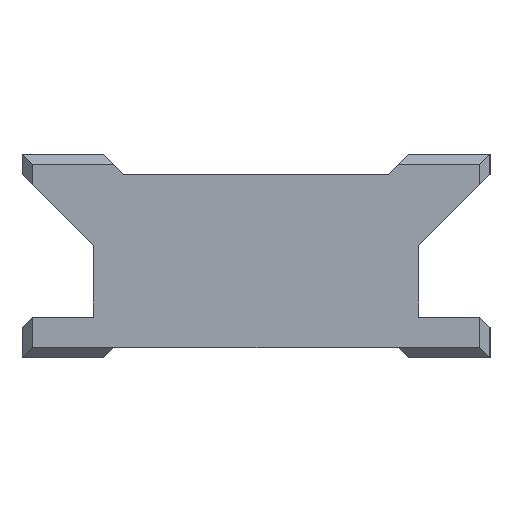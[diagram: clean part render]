
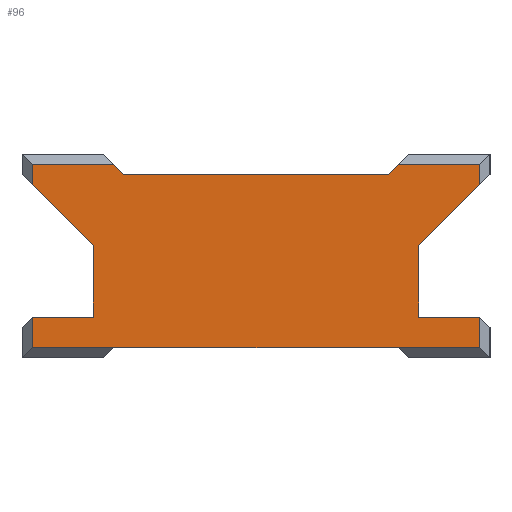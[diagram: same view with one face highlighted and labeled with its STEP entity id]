
A CAD part, left-side view. The second image highlights one B-rep face of the part: STEP entity #96.
In plain terms, the highlighted planar face has unit normal (-1, 0, 0).
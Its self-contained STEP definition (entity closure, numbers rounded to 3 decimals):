
#96 = ADVANCED_FACE( '', ( #246 ), #247, .T. );
#246 = FACE_OUTER_BOUND( '', #496, .T. );
#247 = PLANE( '', #497 );
#496 = EDGE_LOOP( '', ( #909, #910, #911, #912, #913, #914, #915, #916, #917, #918, #919, #920, #921, #922, #923, #924, #925, #926 ) );
#497 = AXIS2_PLACEMENT_3D( '', #927, #928, #929 );
#909 = ORIENTED_EDGE( '', *, *, #1646, .T. );
#910 = ORIENTED_EDGE( '', *, *, #1647, .T. );
#911 = ORIENTED_EDGE( '', *, *, #1634, .T. );
#912 = ORIENTED_EDGE( '', *, *, #1640, .T. );
#913 = ORIENTED_EDGE( '', *, *, #1642, .T. );
#914 = ORIENTED_EDGE( '', *, *, #1644, .T. );
#915 = ORIENTED_EDGE( '', *, *, #1648, .T. );
#916 = ORIENTED_EDGE( '', *, *, #1649, .T. );
#917 = ORIENTED_EDGE( '', *, *, #1516, .T. );
#918 = ORIENTED_EDGE( '', *, *, #1650, .T. );
#919 = ORIENTED_EDGE( '', *, *, #1651, .T. );
#920 = ORIENTED_EDGE( '', *, *, #1652, .T. );
#921 = ORIENTED_EDGE( '', *, *, #1653, .T. );
#922 = ORIENTED_EDGE( '', *, *, #1654, .T. );
#923 = ORIENTED_EDGE( '', *, *, #1655, .T. );
#924 = ORIENTED_EDGE( '', *, *, #1656, .T. );
#925 = ORIENTED_EDGE( '', *, *, #1657, .T. );
#926 = ORIENTED_EDGE( '', *, *, #1567, .T. );
#927 = CARTESIAN_POINT( '', ( -200., 0., -5. ) );
#928 = DIRECTION( '', ( -1., 0., 0. ) );
#929 = DIRECTION( '', ( 0., 0., 1. ) );
#1516 = EDGE_CURVE( '', #1774, #1775, #1776, .T. );
#1567 = EDGE_CURVE( '', #1873, #1874, #1875, .T. );
#1634 = EDGE_CURVE( '', #1995, #1996, #1997, .T. );
#1640 = EDGE_CURVE( '', #1996, #2004, #2006, .T. );
#1642 = EDGE_CURVE( '', #2004, #2008, #2009, .T. );
#1644 = EDGE_CURVE( '', #2008, #2011, #2012, .T. );
#1646 = EDGE_CURVE( '', #1874, #2014, #2015, .T. );
#1647 = EDGE_CURVE( '', #2014, #1995, #2016, .T. );
#1648 = EDGE_CURVE( '', #2011, #2017, #2018, .T. );
#1649 = EDGE_CURVE( '', #2017, #1774, #2019, .T. );
#1650 = EDGE_CURVE( '', #1775, #2020, #2021, .T. );
#1651 = EDGE_CURVE( '', #2020, #2022, #2023, .T. );
#1652 = EDGE_CURVE( '', #2022, #2024, #2025, .T. );
#1653 = EDGE_CURVE( '', #2024, #2026, #2027, .T. );
#1654 = EDGE_CURVE( '', #2026, #2028, #2029, .T. );
#1655 = EDGE_CURVE( '', #2028, #2030, #2031, .T. );
#1656 = EDGE_CURVE( '', #2030, #2032, #2033, .T. );
#1657 = EDGE_CURVE( '', #2032, #1873, #2034, .T. );
#1774 = VERTEX_POINT( '', #2204 );
#1775 = VERTEX_POINT( '', #2205 );
#1776 = LINE( '', #2206, #2207 );
#1873 = VERTEX_POINT( '', #2330 );
#1874 = VERTEX_POINT( '', #2331 );
#1875 = LINE( '', #2332, #2333 );
#1995 = VERTEX_POINT( '', #2500 );
#1996 = VERTEX_POINT( '', #2501 );
#1997 = LINE( '', #2502, #2503 );
#2004 = VERTEX_POINT( '', #2514 );
#2006 = LINE( '', #2517, #2518 );
#2008 = VERTEX_POINT( '', #2521 );
#2009 = LINE( '', #2522, #2523 );
#2011 = VERTEX_POINT( '', #2526 );
#2012 = LINE( '', #2527, #2528 );
#2014 = VERTEX_POINT( '', #2531 );
#2015 = LINE( '', #2532, #2533 );
#2016 = LINE( '', #2534, #2535 );
#2017 = VERTEX_POINT( '', #2536 );
#2018 = LINE( '', #2537, #2538 );
#2019 = LINE( '', #2539, #2540 );
#2020 = VERTEX_POINT( '', #2541 );
#2021 = LINE( '', #2542, #2543 );
#2022 = VERTEX_POINT( '', #2544 );
#2023 = LINE( '', #2545, #2546 );
#2024 = VERTEX_POINT( '', #2547 );
#2025 = LINE( '', #2548, #2549 );
#2026 = VERTEX_POINT( '', #2550 );
#2027 = LINE( '', #2551, #2552 );
#2028 = VERTEX_POINT( '', #2553 );
#2029 = LINE( '', #2554, #2555 );
#2030 = VERTEX_POINT( '', #2556 );
#2031 = LINE( '', #2557, #2558 );
#2032 = VERTEX_POINT( '', #2559 );
#2033 = LINE( '', #2560, #2561 );
#2034 = LINE( '', #2562, #2563 );
#2204 = CARTESIAN_POINT( '', ( -200., 7., -4.5 ) );
#2205 = CARTESIAN_POINT( '', ( -200., -7., -4.5 ) );
#2206 = CARTESIAN_POINT( '', ( -200., 0., -4.5 ) );
#2207 = VECTOR( '', #2828, 1000. );
#2330 = CARTESIAN_POINT( '', ( -200., -6.5, 4. ) );
#2331 = CARTESIAN_POINT( '', ( -200., 6.5, 4. ) );
#2332 = CARTESIAN_POINT( '', ( -200., 0., 4. ) );
#2333 = VECTOR( '', #2927, 1000. );
#2500 = CARTESIAN_POINT( '', ( -200., 11., 4.5 ) );
#2501 = CARTESIAN_POINT( '', ( -200., 11., 3.5 ) );
#2502 = CARTESIAN_POINT( '', ( -200., 11., -5. ) );
#2503 = VECTOR( '', #3032, 1000. );
#2514 = CARTESIAN_POINT( '', ( -200., 8., 0.5 ) );
#2517 = CARTESIAN_POINT( '', ( -200., 1.25, -6.25 ) );
#2518 = VECTOR( '', #3038, 1000. );
#2521 = CARTESIAN_POINT( '', ( -200., 8., -3. ) );
#2522 = CARTESIAN_POINT( '', ( -200., 8., -5. ) );
#2523 = VECTOR( '', #3040, 1000. );
#2526 = CARTESIAN_POINT( '', ( -200., 11., -3. ) );
#2527 = CARTESIAN_POINT( '', ( -200., 0., -3. ) );
#2528 = VECTOR( '', #3042, 1000. );
#2531 = CARTESIAN_POINT( '', ( -200., 7., 4.5 ) );
#2532 = CARTESIAN_POINT( '', ( -200., -1.25, -3.75 ) );
#2533 = VECTOR( '', #3044, 1000. );
#2534 = CARTESIAN_POINT( '', ( -200., 0., 4.5 ) );
#2535 = VECTOR( '', #3045, 1000. );
#2536 = CARTESIAN_POINT( '', ( -200., 11., -4.5 ) );
#2537 = CARTESIAN_POINT( '', ( -200., 11., -5. ) );
#2538 = VECTOR( '', #3046, 1000. );
#2539 = CARTESIAN_POINT( '', ( -200., 0., -4.5 ) );
#2540 = VECTOR( '', #3047, 1000. );
#2541 = CARTESIAN_POINT( '', ( -200., -11., -4.5 ) );
#2542 = CARTESIAN_POINT( '', ( -200., 0., -4.5 ) );
#2543 = VECTOR( '', #3048, 1000. );
#2544 = CARTESIAN_POINT( '', ( -200., -11., -3. ) );
#2545 = CARTESIAN_POINT( '', ( -200., -11., -5. ) );
#2546 = VECTOR( '', #3049, 1000. );
#2547 = CARTESIAN_POINT( '', ( -200., -8., -3. ) );
#2548 = CARTESIAN_POINT( '', ( -200., 0., -3. ) );
#2549 = VECTOR( '', #3050, 1000. );
#2550 = CARTESIAN_POINT( '', ( -200., -8., 0.5 ) );
#2551 = CARTESIAN_POINT( '', ( -200., -8., -5. ) );
#2552 = VECTOR( '', #3051, 1000. );
#2553 = CARTESIAN_POINT( '', ( -200., -11., 3.5 ) );
#2554 = CARTESIAN_POINT( '', ( -200., -1.25, -6.25 ) );
#2555 = VECTOR( '', #3052, 1000. );
#2556 = CARTESIAN_POINT( '', ( -200., -11., 4.5 ) );
#2557 = CARTESIAN_POINT( '', ( -200., -11., -5. ) );
#2558 = VECTOR( '', #3053, 1000. );
#2559 = CARTESIAN_POINT( '', ( -200., -7., 4.5 ) );
#2560 = CARTESIAN_POINT( '', ( -200., 0., 4.5 ) );
#2561 = VECTOR( '', #3054, 1000. );
#2562 = CARTESIAN_POINT( '', ( -200., 1.25, -3.75 ) );
#2563 = VECTOR( '', #3055, 1000. );
#2828 = DIRECTION( '', ( 0., -1., 0. ) );
#2927 = DIRECTION( '', ( 0., 1., 0. ) );
#3032 = DIRECTION( '', ( 0., 0., -1. ) );
#3038 = DIRECTION( '', ( 0., -0.707, -0.707 ) );
#3040 = DIRECTION( '', ( 0., 0., -1. ) );
#3042 = DIRECTION( '', ( 0., 1., 0. ) );
#3044 = DIRECTION( '', ( 0., 0.707, 0.707 ) );
#3045 = DIRECTION( '', ( 0., 1., 0. ) );
#3046 = DIRECTION( '', ( 0., 0., -1. ) );
#3047 = DIRECTION( '', ( 0., -1., 0. ) );
#3048 = DIRECTION( '', ( 0., -1., 0. ) );
#3049 = DIRECTION( '', ( 0., 0., 1. ) );
#3050 = DIRECTION( '', ( 0., 1., 0. ) );
#3051 = DIRECTION( '', ( 0., 0., 1. ) );
#3052 = DIRECTION( '', ( 0., -0.707, 0.707 ) );
#3053 = DIRECTION( '', ( 0., 0., 1. ) );
#3054 = DIRECTION( '', ( 0., 1., 0. ) );
#3055 = DIRECTION( '', ( 0., 0.707, -0.707 ) );
